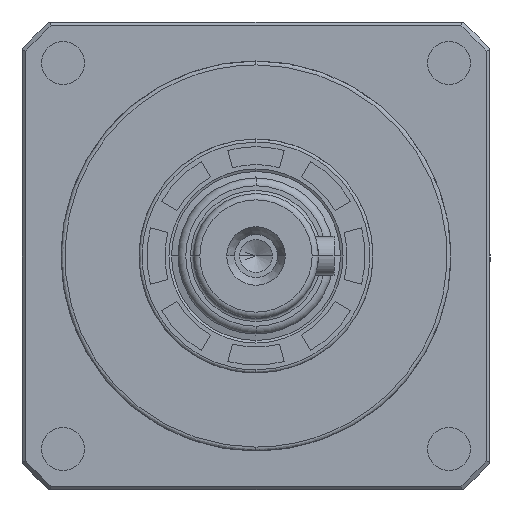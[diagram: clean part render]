
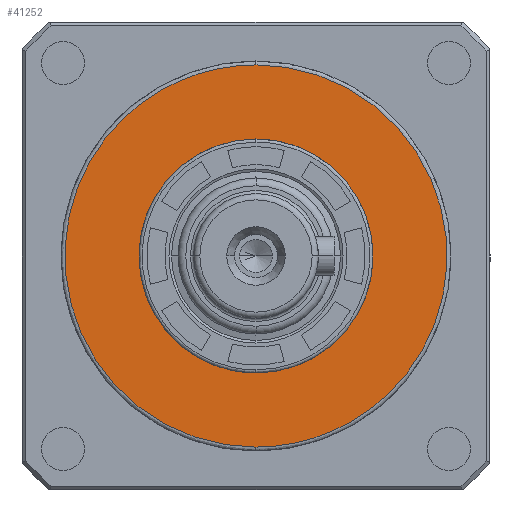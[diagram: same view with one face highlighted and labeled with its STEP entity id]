
A CAD part, left-side view. The second image highlights one B-rep face of the part: STEP entity #41252.
In plain terms, the highlighted planar face has unit normal (-1, 0, 0).
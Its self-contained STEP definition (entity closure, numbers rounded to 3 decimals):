
#501 = EDGE_CURVE ( 'NONE', #35756, #39832, #3800, .T. ) ;
#1337 = EDGE_CURVE ( 'NONE', #39832, #35756, #13931, .T. ) ;
#1353 = EDGE_LOOP ( 'NONE', ( #8255, #24398 ) ) ;
#1875 = EDGE_LOOP ( 'NONE', ( #29191, #25980 ) ) ;
#3800 =( BOUNDED_CURVE ( )  B_SPLINE_CURVE ( 3, ( #19938, #19993, #19987, #19928 ),
 .UNSPECIFIED., .F., .T. ) 
 B_SPLINE_CURVE_WITH_KNOTS ( ( 4, 4 ),
 ( 0., 1. ),
 .UNSPECIFIED. ) 
 CURVE ( )  GEOMETRIC_REPRESENTATION_ITEM ( )  RATIONAL_B_SPLINE_CURVE ( ( 1., 0.333, 0.333, 1. ) ) 
 REPRESENTATION_ITEM ( '' )  );
#5329 = CARTESIAN_POINT ( 'NONE',  ( 2., 0., 24.5 ) ) ;
#6014 = CARTESIAN_POINT ( 'NONE',  ( 2., 0., -24.5 ) ) ;
#7310 = AXIS2_PLACEMENT_3D ( 'NONE', #29066, #29011, #28997 ) ;
#8255 = ORIENTED_EDGE ( 'NONE', *, *, #40730, .F. ) ;
#8492 = AXIS2_PLACEMENT_3D ( 'NONE', #41286, #41229, #41189 ) ;
#8601 = CARTESIAN_POINT ( 'NONE',  ( 2., 0., -24.5 ) ) ;
#8938 = CIRCLE ( 'NONE', #8492, 15. ) ;
#11737 = FACE_OUTER_BOUND ( 'NONE', #1875, .T. ) ;
#12835 = CARTESIAN_POINT ( 'NONE',  ( 2., 0., 15. ) ) ;
#13908 = EDGE_CURVE ( 'NONE', #27171, #39525, #35889, .T. ) ;
#13931 =( BOUNDED_CURVE ( )  B_SPLINE_CURVE ( 3, ( #46433, #40929, #32131, #6014 ),
 .UNSPECIFIED., .F., .F. ) 
 B_SPLINE_CURVE_WITH_KNOTS ( ( 4, 4 ),
 ( 0., 1. ),
 .UNSPECIFIED. ) 
 CURVE ( )  GEOMETRIC_REPRESENTATION_ITEM ( )  RATIONAL_B_SPLINE_CURVE ( ( 1., 0.333, 0.333, 1. ) ) 
 REPRESENTATION_ITEM ( '' )  );
#19928 = CARTESIAN_POINT ( 'NONE',  ( 2., 0., 24.5 ) ) ;
#19938 = CARTESIAN_POINT ( 'NONE',  ( 2., 0., -24.5 ) ) ;
#19987 = CARTESIAN_POINT ( 'NONE',  ( 2., 49., 24.5 ) ) ;
#19993 = CARTESIAN_POINT ( 'NONE',  ( 2., 49., -24.5 ) ) ;
#21576 = FACE_BOUND ( 'NONE', #1353, .T. ) ;
#24398 = ORIENTED_EDGE ( 'NONE', *, *, #13908, .F. ) ;
#25980 = ORIENTED_EDGE ( 'NONE', *, *, #501, .F. ) ;
#27171 = VERTEX_POINT ( 'NONE', #45094 ) ;
#28607 = DIRECTION ( 'NONE',  ( 0., 0., 1. ) ) ;
#28693 = DIRECTION ( 'NONE',  ( -1., 0., 0. ) ) ;
#28698 = CARTESIAN_POINT ( 'NONE',  ( 2., 0., 0. ) ) ;
#28997 = DIRECTION ( 'NONE',  ( 0., 0., -1. ) ) ;
#29011 = DIRECTION ( 'NONE',  ( 1., 0., 0. ) ) ;
#29066 = CARTESIAN_POINT ( 'NONE',  ( 2., 21.693, 0. ) ) ;
#29191 = ORIENTED_EDGE ( 'NONE', *, *, #1337, .F. ) ;
#29674 = PLANE ( 'NONE',  #7310 ) ;
#32131 = CARTESIAN_POINT ( 'NONE',  ( 2., -49., -24.5 ) ) ;
#35756 = VERTEX_POINT ( 'NONE', #8601 ) ;
#35889 = CIRCLE ( 'NONE', #40641, 15. ) ;
#39525 = VERTEX_POINT ( 'NONE', #12835 ) ;
#39832 = VERTEX_POINT ( 'NONE', #5329 ) ;
#40641 = AXIS2_PLACEMENT_3D ( 'NONE', #28698, #28693, #28607 ) ;
#40730 = EDGE_CURVE ( 'NONE', #39525, #27171, #8938, .T. ) ;
#40929 = CARTESIAN_POINT ( 'NONE',  ( 2., -49., 24.5 ) ) ;
#41189 = DIRECTION ( 'NONE',  ( 0., 0., 1. ) ) ;
#41229 = DIRECTION ( 'NONE',  ( -1., 0., 0. ) ) ;
#41252 = ADVANCED_FACE ( 'NONE', ( #11737, #21576 ), #29674, .F. ) ;
#41286 = CARTESIAN_POINT ( 'NONE',  ( 2., 0., 0. ) ) ;
#45094 = CARTESIAN_POINT ( 'NONE',  ( 2., 0., -15. ) ) ;
#46433 = CARTESIAN_POINT ( 'NONE',  ( 2., 0., 24.5 ) ) ;
